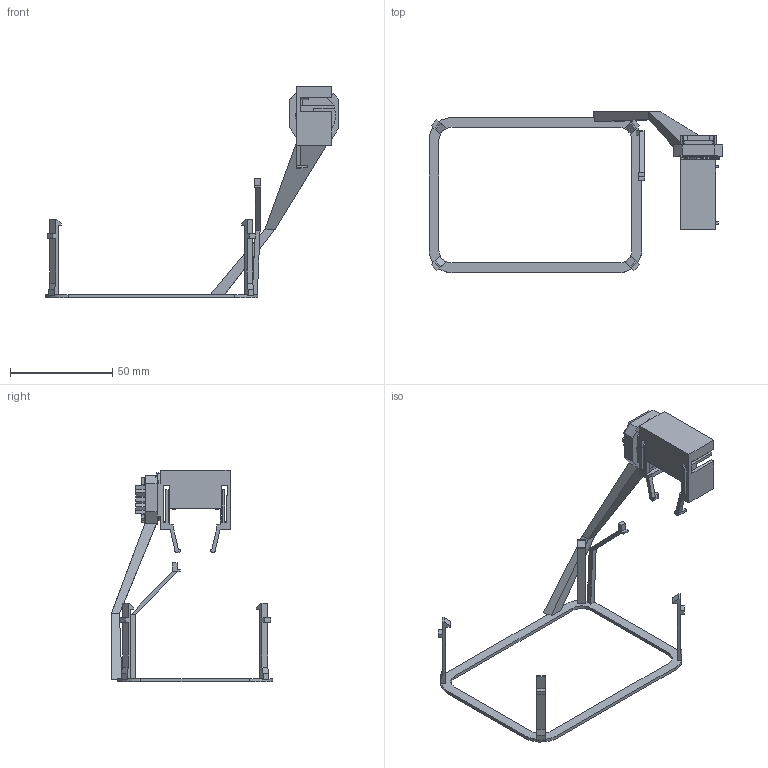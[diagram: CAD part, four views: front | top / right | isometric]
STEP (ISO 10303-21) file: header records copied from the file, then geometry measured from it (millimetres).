
FILE_DESCRIPTION(('Open CASCADE Model'),'2;1');
FILE_NAME('Open CASCADE Shape Model','2026-10-14T02:03:18',('Author'),( 'Open CASCADE'),'Open CASCADE STEP processor 8.0','build123d', 'Unknown');
FILE_SCHEMA(('AUTOMOTIVE_DESIGN { 1 0 10303 214 1 1 1 1 }'));
Length unit declared in the file: millimetre
Products named in the file (1): COMPOUND
Bounding box: 143.85 x 78.95 x 103.7 mm (x, y, z)
Volume: 15565 mm3; surface area: 17784.7 mm2
Topology: 3 solids, 3 shells, 545 faces, 1586 edges, 1052 vertices
Faces by surface type: plane 490, cylinder 41, bspline 14
Full cylindrical faces by diameter (mm): 2.6 x4, 4.4 x4, 12.9 x1
Entity records: 37647 total; most frequent: CARTESIAN_POINT 7869, DIRECTION 4862, LINE 3554, VECTOR 3554, ORIENTED_EDGE 3172, PCURVE 3172, DEFINITIONAL_REPRESENTATION 3172, EDGE_CURVE 1586
